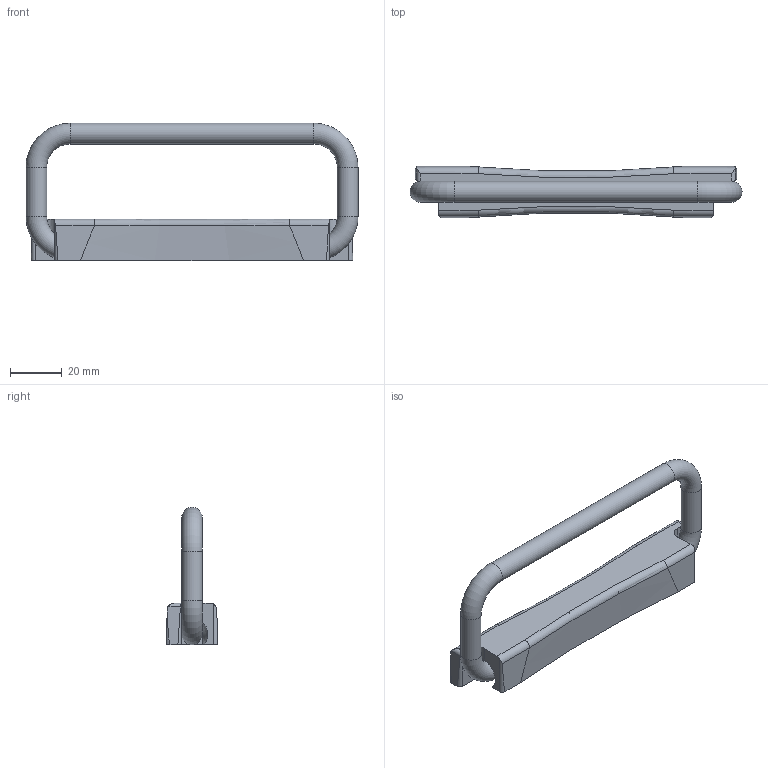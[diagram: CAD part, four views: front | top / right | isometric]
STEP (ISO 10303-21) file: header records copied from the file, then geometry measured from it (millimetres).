
FILE_DESCRIPTION( ( 'STEP AP203' ), '1' );
FILE_NAME( 'C:/Temp/Ganter_Step_05_03_2020/data/1_2/gn425_9/Stainless Steel-Folding handle GN 425.9-120-NI-A-1-SW (activated).stp', '2020-03-05T10:14:43', ( 'License CC BY-ND 4.0' ), ( 'CADENAS' ), ' ', 'PARTsolutions', ' ' );
FILE_SCHEMA( ( 'CONFIG_CONTROL_DESIGN' ) );
Length unit declared in the file: millimetre
Products named in the file (3): Stainless Steel-Folding handle GN 425.9-120-NI-A-1-SW (activated); _Edelstahl-Klappgriff GN 425.9-120-NI-A-1-SW (ausgeklappt)-1; _Edelstahl-Klappgriff GN 425.9-120-NI-A-1-SW (ausgeklappt)-2
Assembly tree (2 placements, depth 2):
  Stainless Steel-Folding handle GN 425.9-120-NI-A-1-SW (activated)
    _Edelstahl-Klappgriff GN 425.9-120-NI-A-1-SW (ausgeklappt)-1
    _Edelstahl-Klappgriff GN 425.9-120-NI-A-1-SW (ausgeklappt)-2
Bounding box: 128 x 20 x 53 mm (x, y, z)
Volume: 40155.8 mm3; surface area: 15139.3 mm2
Topology: 2 solids, 2 shells, 67 faces, 178 edges, 115 vertices
Faces by surface type: plane 28, cylinder 25, torus 10, cone 4
Full cylindrical faces by diameter (mm): 4.917 x2, 8 x5
Entity records: 2333 total; most frequent: CARTESIAN_POINT 651, DIRECTION 328, ORIENTED_EDGE 316, EDGE_CURVE 158, AXIS2_PLACEMENT_3D 128, VERTEX_POINT 112, EDGE_LOOP 82, FACE_OUTER_BOUND 78
